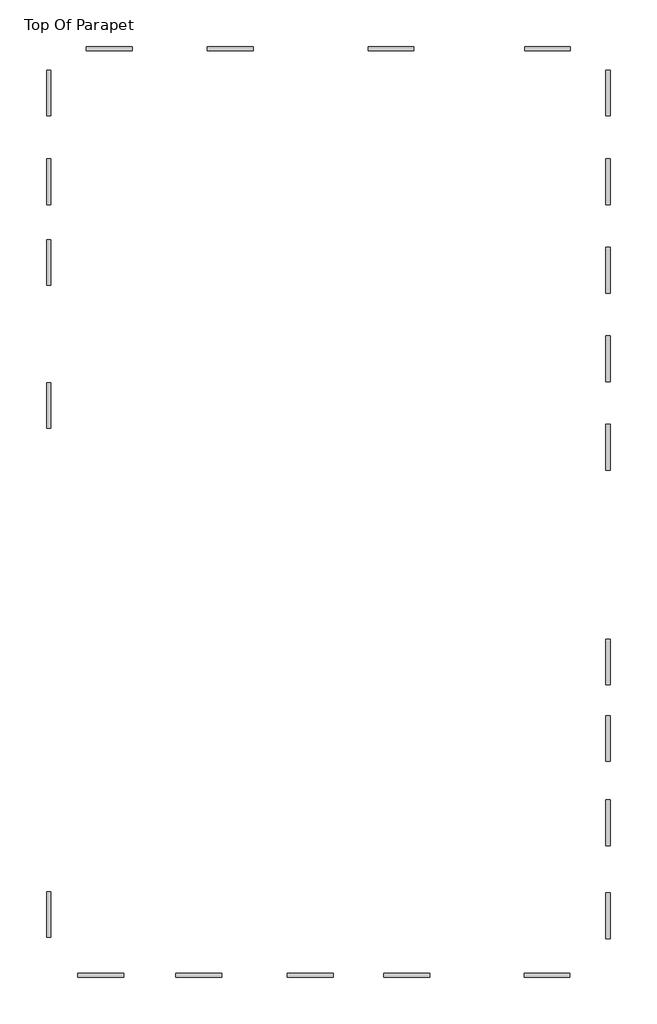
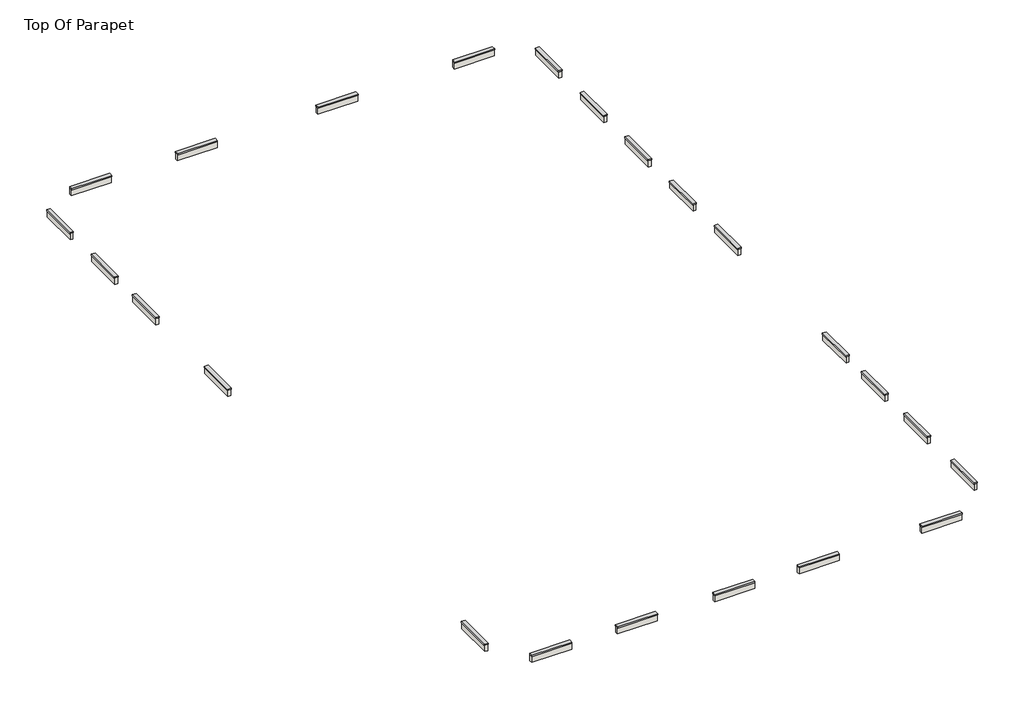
# One storey: 23 walls, 6 proxies.
"""IFC4 building model written with IfcOpenShell, lengths in millimetres."""

import ifcopenshell
import ifcopenshell.guid

model = None  # the IFC model being written
_history = None  # IfcOwnerHistory: only IFC2X3 demands one
_inside = {}  # id of a spatial element -> (the spatial element, [elements in it])
_under = {}  # id of a project, library or spatial element -> (it, [spatial elements below it])
_declared = {}  # id of a project -> (the project, [libraries it declares])
_typed = {}  # id of a type object -> (the type object, [elements of that type])
_made_of = {}  # id of a material, layer set ... -> (it, [elements and type objects made of it])


def new_model(schema):
    """Start an empty IFC model of exactly this schema.

    Asked for "IFC4X3", IfcOpenShell would pick the latest addendum, in which some entities
    have other attributes; the version numbers below select the first issue.
    IFC2X3 requires an IfcOwnerHistory on every rooted entity: one is made here for all.
    """
    global model, _history
    if schema == "IFC4X3":
        model = ifcopenshell.file(schema_version=(4, 3, 0, 0))
    else:
        model = ifcopenshell.file(schema=schema)
    _inside.clear()
    _under.clear()
    _declared.clear()
    _typed.clear()
    _made_of.clear()
    _history = None
    if model.schema == "IFC2X3":
        org = make("IfcOrganization", Name="unknown")
        user = make(
            "IfcPersonAndOrganization",
            ThePerson=make("IfcPerson", FamilyName="unknown"),
            TheOrganization=org,
        )
        app = make(
            "IfcApplication",
            ApplicationDeveloper=org,
            Version="unknown",
            ApplicationFullName="unknown",
            ApplicationIdentifier="unknown",
        )
        _history = make(
            "IfcOwnerHistory",
            OwningUser=user,
            OwningApplication=app,
            ChangeAction="ADDED",
            CreationDate=0,
        )
    return model


def make(cls, **values):
    """One entity of the class cls with the attributes given. An attribute that is None is left unset."""
    return model.create_entity(
        cls, **{name: value for name, value in values.items() if value is not None}
    )


def rooted(cls, **values):
    """An entity with a GlobalId (a new one), such as an element, a storey or a relation."""
    return make(cls, GlobalId=ifcopenshell.guid.new(), OwnerHistory=_history, **values)


def si_unit(unit_type, name, prefix=None):
    """IfcSIUnit, for example si_unit("LENGTHUNIT", "METRE", prefix="MILLI")."""
    return make("IfcSIUnit", UnitType=unit_type, Prefix=prefix, Name=name)


def assignment(units):
    """IfcUnitAssignment: the units of a project."""
    return None if units is None else make("IfcUnitAssignment", Units=units)


def point(xyz):
    """IfcCartesianPoint."""
    return None if xyz is None else make("IfcCartesianPoint", Coordinates=xyz)


def direction(xyz):
    """IfcDirection."""
    return None if xyz is None else make("IfcDirection", DirectionRatios=xyz)


def frame(location, z_axis=None, x_axis=None):
    """IfcAxis2Placement3D, a coordinate frame: its origin and axes. An axis left out is left unset."""
    return make(
        "IfcAxis2Placement3D",
        Location=point(location),
        Axis=direction(z_axis),
        RefDirection=direction(x_axis),
    )


def origin():
    """The frame at (0, 0, 0) with its axes left unset."""
    return frame((0.0, 0.0, 0.0))


def place(relative_to, where):
    """IfcLocalPlacement: puts the frame where relative to a parent placement (None: the world)."""
    return make(
        "IfcLocalPlacement", PlacementRelTo=relative_to, RelativePlacement=where
    )


def context(
    kind, dimensions, precision=None, world=None, true_north=None, identifier=None
):
    """IfcGeometricRepresentationContext, for example the 3D "Model" context."""
    return make(
        "IfcGeometricRepresentationContext",
        ContextIdentifier=identifier,
        ContextType=kind,
        CoordinateSpaceDimension=dimensions,
        Precision=precision,
        WorldCoordinateSystem=world,
        TrueNorth=true_north,
    )


def project(units=None, contexts=None):
    """IfcProject with its units and contexts."""
    return rooted(
        "IfcProject",
        Name="project",
        RepresentationContexts=contexts,
        UnitsInContext=assignment(units),
    )


def spatial(cls, under=None, at=None, **own):
    """A site, building, storey or space (cls), placed at a placement, below another one or the project."""
    s = rooted(cls, ObjectPlacement=at, **own)
    if under is not None:
        _under.setdefault(under.id(), (under, []))[1].append(s)
    return s


def polyline(points):
    """IfcPolyline through the points."""
    return make("IfcPolyline", Points=[point(p) for p in points])


def outline(outer, holes=None, kind="AREA"):
    """IfcArbitraryClosedProfileDef: a profile drawn as a closed curve; with holes, ...WithVoids."""
    if holes is None:
        return make("IfcArbitraryClosedProfileDef", ProfileType=kind, OuterCurve=outer)
    return make(
        "IfcArbitraryProfileDefWithVoids",
        ProfileType=kind,
        OuterCurve=outer,
        InnerCurves=holes,
    )


def extrude(swept, where, along, depth):
    """IfcExtrudedAreaSolid: the profile swept, set in the frame where, extruded along a direction by depth."""
    return make(
        "IfcExtrudedAreaSolid",
        SweptArea=swept,
        Position=where,
        ExtrudedDirection=direction(along),
        Depth=depth,
    )


def shape(context_of_items, identifier, shape_type, items):
    """IfcShapeRepresentation: the items that make up one representation, for example the "Body"."""
    return make(
        "IfcShapeRepresentation",
        ContextOfItems=context_of_items,
        RepresentationIdentifier=identifier,
        RepresentationType=shape_type,
        Items=items,
    )


def made_of(thing, what):
    """Note that an element or type object is made of a material, layer set ...; save() writes the relation."""
    if what is not None:
        _made_of.setdefault(what.id(), (what, []))[1].append(thing)
    return thing


def element(
    cls,
    number,
    at=None,
    inside=None,
    cuts=None,
    type_object=None,
    material=None,
    context=None,
    identifier="Body",
    shape_type=None,
    held_by="IfcProductDefinitionShape",
    body=None,
    shapes=None,
    **own,
):
    """One element of the class cls, such as IfcWall. Its Tag is "e" and its number.

    at: its placement. inside: the storey or other place that contains it. cuts: it is an
    opening in that element (IfcRelVoidsElement). A single representation is given by context,
    identifier, shape_type and body (its items); several are given by shapes. held_by: the class
    of the entity that holds the representations. save() writes the other relations.
    """
    e = rooted(cls, Tag="e%d" % number, ObjectPlacement=at, **own)
    if body is not None:
        shapes = [shape(context, identifier, shape_type, body)]
    if shapes is not None:
        e.Representation = make(held_by, Representations=shapes)
    if inside is not None:
        _inside.setdefault(inside.id(), (inside, []))[1].append(e)
    if cuts is not None:
        rooted(
            "IfcRelVoidsElement", RelatingBuildingElement=cuts, RelatedOpeningElement=e
        )
    if type_object is not None:
        _typed.setdefault(type_object.id(), (type_object, []))[1].append(e)
    return made_of(e, material)


def aggregate(whole, parts):
    """IfcRelAggregates: a whole, such as a stair, and the parts it consists of."""
    return rooted("IfcRelAggregates", RelatingObject=whole, RelatedObjects=parts)


def save(model, path):
    """Write the relations noted so far, then the file.

    IfcRelAggregates (storeys below a building ...), IfcRelContainedInSpatialStructure (elements
    in a storey), IfcRelDefinesByType, IfcRelAssociatesMaterial and IfcRelDeclares: one each for
    every whole, place, type object, material and project.
    """
    for whole, parts in _under.values():
        aggregate(whole, parts)
    for where, things in _inside.values():
        rooted(
            "IfcRelContainedInSpatialStructure",
            RelatedElements=things,
            RelatingStructure=where,
        )
    for kind, things in _typed.values():
        rooted("IfcRelDefinesByType", RelatedObjects=things, RelatingType=kind)
    for what, things in _made_of.values():
        rooted("IfcRelAssociatesMaterial", RelatedObjects=things, RelatingMaterial=what)
    for by, libraries in _declared.values():
        rooted("IfcRelDeclares", RelatingContext=by, RelatedDefinitions=libraries)
    model.write(path)


model = new_model("IFC4")

# Units and contexts
model_context = context("Model", 3, world=origin())
ifc_project = project(units=[si_unit("LENGTHUNIT", "METRE", prefix="MILLI")], contexts=[model_context])

# Site, building, storey
site = spatial("IfcSite", under=ifc_project)
building = spatial("IfcBuilding", under=site)
storey = spatial("IfcBuildingStorey", under=building, Name="Top Of Parapet", Elevation=5900.0)

# Proxies
placement = place(None, origin())
element("IfcBuildingElementProxy", 1, Name="Cornice", ObjectType="Cornice", at=placement, inside=storey, context=model_context, shape_type="SweptSolid", body=[
    extrude(outline(polyline([(-19976.2327602, -41404.7846466), (-19976.2327602, -41104.7846466), (-16876.2327604, -41104.7846466), (-16876.2327604, -41404.7846466), (-19976.2327602, -41404.7846466)])), frame((0.0, 0.0, 5800.0), z_axis=(0.0, 0.0, 1.0), x_axis=(1.0, 0.0, 0.0)), (0.0, 0.0, 1.0), 100.0),
    extrude(outline(polyline([(-5776.2327602, -41404.7846466), (-5776.2327602, -41104.7846466), (-2676.2327604, -41104.7846466), (-2676.2327604, -41404.7846466), (-5776.2327602, -41404.7846466)])), frame((0.0, 0.0, 5800.0), z_axis=(0.0, 0.0, 1.0), x_axis=(1.0, 0.0, 0.0)), (0.0, 0.0, 1.0), 100.0),
    extrude(outline(polyline([(773.7672398, -41404.7846466), (773.7672398, -41104.7846466), (3873.7672396, -41104.7846466), (3873.7672396, -41404.7846466), (773.7672398, -41404.7846466)])), frame((0.0, 0.0, 5800.0), z_axis=(0.0, 0.0, 1.0), x_axis=(1.0, 0.0, 0.0)), (0.0, 0.0, 1.0), 100.0),
    extrude(outline(polyline([(-13326.2327602, -41404.7846466), (-13326.2327602, -41104.7846466), (-10226.2327604, -41104.7846466), (-10226.2327604, -41404.7846466), (-13326.2327602, -41404.7846466)])), frame((0.0, 0.0, 5800.0), z_axis=(0.0, 0.0, 1.0), x_axis=(1.0, 0.0, 0.0)), (0.0, 0.0, 1.0), 100.0),
])
element("IfcBuildingElementProxy", 2, Name="Cornice", ObjectType="Cornice", at=placement, inside=storey, context=model_context, shape_type="SweptSolid", body=[
    extrude(outline(polyline([(-22097.2327605, -35594.7846469), (-21797.2327605, -35594.7846469), (-21797.2327605, -38694.7846467), (-22097.2327605, -38694.7846467), (-22097.2327605, -35594.7846469)])), frame((0.0, 0.0, 5800.0), z_axis=(0.0, 0.0, 1.0), x_axis=(1.0, 0.0, 0.0)), (0.0, 0.0, 1.0), 100.0),
])
element("IfcBuildingElementProxy", 3, Name="Cornice", ObjectType="Cornice", at=placement, inside=storey, context=model_context, shape_type="SweptSolid", body=[
    extrude(outline(polyline([(10282.7672394, -41404.7846466), (10282.7672394, -41104.7846466), (13382.7672392, -41104.7846466), (13382.7672392, -41404.7846466), (10282.7672394, -41404.7846466)])), frame((0.0, 0.0, 5800.0), z_axis=(0.0, 0.0, 1.0), x_axis=(1.0, 0.0, 0.0)), (0.0, 0.0, 1.0), 100.0),
])
element("IfcBuildingElementProxy", 4, Name="Cornice", ObjectType="Cornice", at=placement, inside=storey, context=model_context, shape_type="SweptSolid", body=[
    extrude(outline(polyline([(16103.0482736, -38764.7846463), (15803.0482736, -38764.7846463), (15803.0482736, -35664.7846465), (16103.0482736, -35664.7846465), (16103.0482736, -38764.7846463)])), frame((0.0, 0.0, 5803.3807397), z_axis=(0.0, 0.0, 1.0), x_axis=(1.0, 0.0, 0.0)), (0.0, 0.0, 1.0), 100.0),
    extrude(outline(polyline([(16102.7672395, -32464.7846463), (15802.7672395, -32464.7846463), (15802.7672395, -29364.7846465), (16102.7672395, -29364.7846465), (16102.7672395, -32464.7846463)])), frame((0.0, 0.0, 5803.3807397), z_axis=(0.0, 0.0, 1.0), x_axis=(1.0, 0.0, 0.0)), (0.0, 0.0, 1.0), 100.0),
    extrude(outline(polyline([(16102.7672395, -26764.2217865), (15802.7672395, -26764.2217865), (15802.7672395, -23664.2217867), (16102.7672395, -23664.2217867), (16102.7672395, -26764.2217865)])), frame((0.0, 0.0, 5803.3807397), z_axis=(0.0, 0.0, 1.0), x_axis=(1.0, 0.0, 0.0)), (0.0, 0.0, 1.0), 100.0),
    extrude(outline(polyline([(16102.7672395, -21565.3475062), (15802.7672395, -21565.3475062), (15802.7672395, -18465.3475064), (16102.7672395, -18465.3475064), (16102.7672395, -21565.3475062)])), frame((0.0, 0.0, 5803.3807397), z_axis=(0.0, 0.0, 1.0), x_axis=(1.0, 0.0, 0.0)), (0.0, 0.0, 1.0), 100.0),
    extrude(outline(polyline([(16102.7672395, -7014.7846463), (15802.7672395, -7014.7846463), (15802.7672395, -3914.7846465), (16102.7672395, -3914.7846465), (16102.7672395, -7014.7846463)])), frame((0.0, 0.0, 5803.3807397), z_axis=(0.0, 0.0, 1.0), x_axis=(1.0, 0.0, 0.0)), (0.0, 0.0, 1.0), 100.0),
    extrude(outline(polyline([(16102.7672395, -1014.7846463), (15802.7672395, -1014.7846463), (15802.7672395, 2085.2153535), (16102.7672395, 2085.2153535), (16102.7672395, -1014.7846463)])), frame((0.0, 0.0, 5803.3807397), z_axis=(0.0, 0.0, 1.0), x_axis=(1.0, 0.0, 0.0)), (0.0, 0.0, 1.0), 100.0),
    extrude(outline(polyline([(16102.7672395, 4985.2153537), (15802.7672395, 4985.2153537), (15802.7672395, 8085.2153535), (16102.7672395, 8085.2153535), (16102.7672395, 4985.2153537)])), frame((0.0, 0.0, 5803.3807397), z_axis=(0.0, 0.0, 1.0), x_axis=(1.0, 0.0, 0.0)), (0.0, 0.0, 1.0), 100.0),
    extrude(outline(polyline([(16102.7672395, 10985.2153537), (15802.7672395, 10985.2153537), (15802.7672395, 14085.2153535), (16102.7672395, 14085.2153535), (16102.7672395, 10985.2153537)])), frame((0.0, 0.0, 5803.3807397), z_axis=(0.0, 0.0, 1.0), x_axis=(1.0, 0.0, 0.0)), (0.0, 0.0, 1.0), 100.0),
    extrude(outline(polyline([(16102.7672395, 17005.2153546), (15802.7672395, 17005.2153546), (15802.7672395, 20105.2153544), (16102.7672395, 20105.2153544), (16102.7672395, 17005.2153546)])), frame((0.0, 0.0, 5803.3807397), z_axis=(0.0, 0.0, 1.0), x_axis=(1.0, 0.0, 0.0)), (0.0, 0.0, 1.0), 100.0),
])
element("IfcBuildingElementProxy", 5, Name="Cornice", ObjectType="Cornice", at=placement, inside=storey, context=model_context, shape_type="SweptSolid", body=[
    extrude(outline(polyline([(13402.7672392, 21695.2153534), (13402.7672392, 21395.2153534), (10302.7672394, 21395.2153534), (10302.7672394, 21695.2153534), (13402.7672392, 21695.2153534)])), frame((0.0, 0.0, 5803.3807397), z_axis=(0.0, 0.0, 1.0), x_axis=(1.0, 0.0, 0.0)), (0.0, 0.0, 1.0), 100.0),
    extrude(outline(polyline([(2802.7672392, 21695.2153534), (2802.7672392, 21395.2153534), (-297.2327606, 21395.2153534), (-297.2327606, 21695.2153534), (2802.7672392, 21695.2153534)])), frame((0.0, 0.0, 5803.3807397), z_axis=(0.0, 0.0, 1.0), x_axis=(1.0, 0.0, 0.0)), (0.0, 0.0, 1.0), 100.0),
    extrude(outline(polyline([(-8097.2327608, 21695.2153534), (-8097.2327608, 21395.2153534), (-11197.2327606, 21395.2153534), (-11197.2327606, 21695.2153534), (-8097.2327608, 21695.2153534)])), frame((0.0, 0.0, 5803.3807397), z_axis=(0.0, 0.0, 1.0), x_axis=(1.0, 0.0, 0.0)), (0.0, 0.0, 1.0), 100.0),
    extrude(outline(polyline([(-16297.2327608, 21695.2153534), (-16297.2327608, 21395.2153534), (-19397.2327606, 21395.2153534), (-19397.2327606, 21695.2153534), (-16297.2327608, 21695.2153534)])), frame((0.0, 0.0, 5803.3807397), z_axis=(0.0, 0.0, 1.0), x_axis=(1.0, 0.0, 0.0)), (0.0, 0.0, 1.0), 100.0),
])
element("IfcBuildingElementProxy", 6, Name="Cornice", ObjectType="Cornice", at=placement, inside=storey, context=model_context, shape_type="SweptSolid", body=[
    extrude(outline(polyline([(-21797.2327605, 17005.2153546), (-22097.2327605, 17005.2153546), (-22097.2327605, 20105.2153544), (-21797.2327605, 20105.2153544), (-21797.2327605, 17005.2153546)])), frame((0.0, 0.0, 5803.3807397), z_axis=(0.0, 0.0, 1.0), x_axis=(1.0, 0.0, 0.0)), (0.0, 0.0, 1.0), 100.0),
    extrude(outline(polyline([(-21797.2327605, 10985.2153537), (-22097.2327605, 10985.2153537), (-22097.2327605, 14085.2153535), (-21797.2327605, 14085.2153535), (-21797.2327605, 10985.2153537)])), frame((0.0, 0.0, 5803.3807397), z_axis=(0.0, 0.0, 1.0), x_axis=(1.0, 0.0, 0.0)), (0.0, 0.0, 1.0), 100.0),
    extrude(outline(polyline([(-21797.2327605, 5505.2153546), (-22097.2327605, 5505.2153546), (-22097.2327605, 8605.2153544), (-21797.2327605, 8605.2153544), (-21797.2327605, 5505.2153546)])), frame((0.0, 0.0, 5803.3807397), z_axis=(0.0, 0.0, 1.0), x_axis=(1.0, 0.0, 0.0)), (0.0, 0.0, 1.0), 100.0),
    extrude(outline(polyline([(-21797.2327605, -4194.7846454), (-22097.2327605, -4194.7846454), (-22097.2327605, -1094.7846456), (-21797.2327605, -1094.7846456), (-21797.2327605, -4194.7846454)])), frame((0.0, 0.0, 5803.3807397), z_axis=(0.0, 0.0, 1.0), x_axis=(1.0, 0.0, 0.0)), (0.0, 0.0, 1.0), 100.0),
])

# Walls
element("IfcWall", 7, ObjectType="Exterior - Blockwork 200mm", at=placement, inside=storey, context=model_context, shape_type="SweptSolid", body=[
    extrude(outline(polyline([(-21837.2327605, 20105.2153544), (-21837.2327605, 17005.2153546), (-22057.2327605, 17005.2153546), (-22057.2327605, 20105.2153544), (-21837.2327605, 20105.2153544)])), frame((0.0, 0.0, 5302.8002678), z_axis=(0.0, 0.0, 1.0), x_axis=(1.0, 0.0, 0.0)), (0.0, 0.0, 1.0), 500.5804719),
])
element("IfcWall", 8, ObjectType="Exterior - Blockwork 200mm", at=placement, inside=storey, context=model_context, shape_type="SweptSolid", body=[
    extrude(outline(polyline([(-21837.2327605, 14085.2153535), (-21837.2327605, 10985.2153537), (-22057.2327605, 10985.2153537), (-22057.2327605, 14085.2153535), (-21837.2327605, 14085.2153535)])), frame((0.0, 0.0, 5302.8002678), z_axis=(0.0, 0.0, 1.0), x_axis=(1.0, 0.0, 0.0)), (0.0, 0.0, 1.0), 500.5804719),
])
element("IfcWall", 9, ObjectType="Exterior - Blockwork 200mm", at=placement, inside=storey, context=model_context, shape_type="SweptSolid", body=[
    extrude(outline(polyline([(-21837.2327605, 8605.2153544), (-21837.2327605, 5505.2153546), (-22057.2327605, 5505.2153546), (-22057.2327605, 8605.2153544), (-21837.2327605, 8605.2153544)])), frame((0.0, 0.0, 5302.8002678), z_axis=(0.0, 0.0, 1.0), x_axis=(1.0, 0.0, 0.0)), (0.0, 0.0, 1.0), 500.5804719),
])
element("IfcWall", 10, ObjectType="Exterior - Blockwork 200mm", at=placement, inside=storey, context=model_context, shape_type="SweptSolid", body=[
    extrude(outline(polyline([(-21837.2327605, -1094.7846456), (-21837.2327605, -4194.7846454), (-22057.2327605, -4194.7846454), (-22057.2327605, -1094.7846456), (-21837.2327605, -1094.7846456)])), frame((0.0, 0.0, 5302.8002678), z_axis=(0.0, 0.0, 1.0), x_axis=(1.0, 0.0, 0.0)), (0.0, 0.0, 1.0), 500.5804719),
])
element("IfcWall", 11, ObjectType="Exterior - Blockwork 200mm", at=placement, inside=storey, context=model_context, shape_type="SweptSolid", body=[
    extrude(outline(polyline([(-21837.2327605, -35594.7846469), (-21837.2327605, -38694.7846467), (-22057.2327605, -38694.7846467), (-22057.2327605, -35594.7846469), (-21837.2327605, -35594.7846469)])), frame((0.0, 0.0, 5302.8002678), z_axis=(0.0, 0.0, 1.0), x_axis=(1.0, 0.0, 0.0)), (0.0, 0.0, 1.0), 500.5804719),
])
element("IfcWall", 12, ObjectType="Exterior - Blockwork 200mm", at=placement, inside=storey, context=model_context, shape_type="SweptSolid", body=[
    extrude(outline(polyline([(16062.7672395, 20105.2153544), (16062.7672395, 17005.2153546), (15842.7672395, 17005.2153546), (15842.7672395, 20105.2153544), (16062.7672395, 20105.2153544)])), frame((0.0, 0.0, 5302.8002678), z_axis=(0.0, 0.0, 1.0), x_axis=(1.0, 0.0, 0.0)), (0.0, 0.0, 1.0), 500.5804719),
])
element("IfcWall", 13, ObjectType="Exterior - Blockwork 200mm", at=placement, inside=storey, context=model_context, shape_type="SweptSolid", body=[
    extrude(outline(polyline([(16062.7672395, 14085.2153535), (16062.7672395, 10985.2153537), (15842.7672395, 10985.2153537), (15842.7672395, 14085.2153535), (16062.7672395, 14085.2153535)])), frame((0.0, 0.0, 5302.8002678), z_axis=(0.0, 0.0, 1.0), x_axis=(1.0, 0.0, 0.0)), (0.0, 0.0, 1.0), 500.5804719),
])
element("IfcWall", 14, ObjectType="Exterior - Blockwork 200mm", at=placement, inside=storey, context=model_context, shape_type="SweptSolid", body=[
    extrude(outline(polyline([(16062.7672395, 8085.2153535), (16062.7672395, 4985.2153537), (15842.7672395, 4985.2153537), (15842.7672395, 8085.2153535), (16062.7672395, 8085.2153535)])), frame((0.0, 0.0, 5302.8002678), z_axis=(0.0, 0.0, 1.0), x_axis=(1.0, 0.0, 0.0)), (0.0, 0.0, 1.0), 500.5804719),
])
element("IfcWall", 15, ObjectType="Exterior - Blockwork 200mm", at=placement, inside=storey, context=model_context, shape_type="SweptSolid", body=[
    extrude(outline(polyline([(16062.7672395, 2085.2153535), (16062.7672395, -1014.7846463), (15842.7672395, -1014.7846463), (15842.7672395, 2085.2153535), (16062.7672395, 2085.2153535)])), frame((0.0, 0.0, 5302.8002678), z_axis=(0.0, 0.0, 1.0), x_axis=(1.0, 0.0, 0.0)), (0.0, 0.0, 1.0), 500.5804719),
])
element("IfcWall", 16, ObjectType="Exterior - Blockwork 200mm", at=placement, inside=storey, context=model_context, shape_type="SweptSolid", body=[
    extrude(outline(polyline([(16062.7672395, -3914.7846465), (16062.7672395, -7014.7846463), (15842.7672395, -7014.7846463), (15842.7672395, -3914.7846465), (16062.7672395, -3914.7846465)])), frame((0.0, 0.0, 5302.8002678), z_axis=(0.0, 0.0, 1.0), x_axis=(1.0, 0.0, 0.0)), (0.0, 0.0, 1.0), 500.5804719),
])
element("IfcWall", 17, ObjectType="Exterior - Blockwork 200mm", at=placement, inside=storey, context=model_context, shape_type="SweptSolid", body=[
    extrude(outline(polyline([(16062.7672395, -18465.3475064), (16062.7672395, -21565.3475062), (15842.7672395, -21565.3475062), (15842.7672395, -18465.3475064), (16062.7672395, -18465.3475064)])), frame((0.0, 0.0, 5302.8002678), z_axis=(0.0, 0.0, 1.0), x_axis=(1.0, 0.0, 0.0)), (0.0, 0.0, 1.0), 500.5804719),
])
element("IfcWall", 18, ObjectType="Exterior - Blockwork 200mm", at=placement, inside=storey, context=model_context, shape_type="SweptSolid", body=[
    extrude(outline(polyline([(16062.7672395, -23664.2217867), (16062.7672395, -26764.2217865), (15842.7672395, -26764.2217865), (15842.7672395, -23664.2217867), (16062.7672395, -23664.2217867)])), frame((0.0, 0.0, 5302.8002678), z_axis=(0.0, 0.0, 1.0), x_axis=(1.0, 0.0, 0.0)), (0.0, 0.0, 1.0), 500.5804719),
])
element("IfcWall", 19, ObjectType="Exterior - Blockwork 200mm", at=placement, inside=storey, context=model_context, shape_type="SweptSolid", body=[
    extrude(outline(polyline([(16062.7672395, -29364.7846465), (16062.7672395, -32464.7846463), (15842.7672395, -32464.7846463), (15842.7672395, -29364.7846465), (16062.7672395, -29364.7846465)])), frame((0.0, 0.0, 5302.8002678), z_axis=(0.0, 0.0, 1.0), x_axis=(1.0, 0.0, 0.0)), (0.0, 0.0, 1.0), 500.5804719),
])
element("IfcWall", 20, ObjectType="Exterior - Blockwork 200mm", at=placement, inside=storey, context=model_context, shape_type="SweptSolid", body=[
    extrude(outline(polyline([(16063.0482736, -35664.7846465), (16063.0482736, -38764.7846463), (15843.0482736, -38764.7846463), (15843.0482736, -35664.7846465), (16063.0482736, -35664.7846465)])), frame((0.0, 0.0, 5302.8002678), z_axis=(0.0, 0.0, 1.0), x_axis=(1.0, 0.0, 0.0)), (0.0, 0.0, 1.0), 500.5804719),
])
element("IfcWall", 21, ObjectType="Exterior - Blockwork 200mm", at=placement, inside=storey, context=model_context, shape_type="SweptSolid", body=[
    extrude(outline(polyline([(10302.7672394, 21655.2153534), (13402.7672392, 21655.2153534), (13402.7672392, 21435.2153534), (10302.7672394, 21435.2153534), (10302.7672394, 21655.2153534)])), frame((0.0, 0.0, 5302.8002678), z_axis=(0.0, 0.0, 1.0), x_axis=(1.0, 0.0, 0.0)), (0.0, 0.0, 1.0), 500.5804719),
])
element("IfcWall", 22, ObjectType="Exterior - Blockwork 200mm", at=placement, inside=storey, context=model_context, shape_type="SweptSolid", body=[
    extrude(outline(polyline([(-297.2327606, 21655.2153534), (2802.7672392, 21655.2153534), (2802.7672392, 21435.2153534), (-297.2327606, 21435.2153534), (-297.2327606, 21655.2153534)])), frame((0.0, 0.0, 5302.8002678), z_axis=(0.0, 0.0, 1.0), x_axis=(1.0, 0.0, 0.0)), (0.0, 0.0, 1.0), 500.5804719),
])
element("IfcWall", 23, ObjectType="Exterior - Blockwork 200mm", at=placement, inside=storey, context=model_context, shape_type="SweptSolid", body=[
    extrude(outline(polyline([(-11197.2327606, 21655.2153534), (-8097.2327608, 21655.2153534), (-8097.2327608, 21435.2153534), (-11197.2327606, 21435.2153534), (-11197.2327606, 21655.2153534)])), frame((0.0, 0.0, 5302.8002678), z_axis=(0.0, 0.0, 1.0), x_axis=(1.0, 0.0, 0.0)), (0.0, 0.0, 1.0), 500.5804719),
])
element("IfcWall", 24, ObjectType="Exterior - Blockwork 200mm", at=placement, inside=storey, context=model_context, shape_type="SweptSolid", body=[
    extrude(outline(polyline([(-19397.2327606, 21655.2153534), (-16297.2327608, 21655.2153534), (-16297.2327608, 21435.2153534), (-19397.2327606, 21435.2153534), (-19397.2327606, 21655.2153534)])), frame((0.0, 0.0, 5302.8002678), z_axis=(0.0, 0.0, 1.0), x_axis=(1.0, 0.0, 0.0)), (0.0, 0.0, 1.0), 500.5804719),
])
element("IfcWall", 25, ObjectType="Exterior - Blockwork 200mm", at=placement, inside=storey, context=model_context, shape_type="SweptSolid", body=[
    extrude(outline(polyline([(13382.7672392, -41364.7846466), (10282.7672394, -41364.7846466), (10282.7672394, -41144.7846466), (13382.7672392, -41144.7846466), (13382.7672392, -41364.7846466)])), frame((0.0, 0.0, 5302.8002678), z_axis=(0.0, 0.0, 1.0), x_axis=(1.0, 0.0, 0.0)), (0.0, 0.0, 1.0), 500.5804719),
])
element("IfcWall", 26, ObjectType="Exterior - Blockwork 200mm", at=placement, inside=storey, context=model_context, shape_type="SweptSolid", body=[
    extrude(outline(polyline([(3873.7672396, -41364.7846466), (773.7672398, -41364.7846466), (773.7672398, -41144.7846466), (3873.7672396, -41144.7846466), (3873.7672396, -41364.7846466)])), frame((0.0, 0.0, 5302.8002678), z_axis=(0.0, 0.0, 1.0), x_axis=(1.0, 0.0, 0.0)), (0.0, 0.0, 1.0), 500.5804719),
])
element("IfcWall", 27, ObjectType="Exterior - Blockwork 200mm", at=placement, inside=storey, context=model_context, shape_type="SweptSolid", body=[
    extrude(outline(polyline([(-2676.2327604, -41364.7846466), (-5776.2327602, -41364.7846466), (-5776.2327602, -41144.7846466), (-2676.2327604, -41144.7846466), (-2676.2327604, -41364.7846466)])), frame((0.0, 0.0, 5302.8002678), z_axis=(0.0, 0.0, 1.0), x_axis=(1.0, 0.0, 0.0)), (0.0, 0.0, 1.0), 500.5804719),
])
element("IfcWall", 28, ObjectType="Exterior - Blockwork 200mm", at=placement, inside=storey, context=model_context, shape_type="SweptSolid", body=[
    extrude(outline(polyline([(-10226.2327604, -41364.7846466), (-13326.2327602, -41364.7846466), (-13326.2327602, -41144.7846466), (-10226.2327604, -41144.7846466), (-10226.2327604, -41364.7846466)])), frame((0.0, 0.0, 5302.8002678), z_axis=(0.0, 0.0, 1.0), x_axis=(1.0, 0.0, 0.0)), (0.0, 0.0, 1.0), 500.5804719),
])
element("IfcWall", 29, ObjectType="Exterior - Blockwork 200mm", at=placement, inside=storey, context=model_context, shape_type="SweptSolid", body=[
    extrude(outline(polyline([(-16876.2327604, -41364.7846466), (-19976.2327602, -41364.7846466), (-19976.2327602, -41144.7846466), (-16876.2327604, -41144.7846466), (-16876.2327604, -41364.7846466)])), frame((0.0, 0.0, 5302.8002678), z_axis=(0.0, 0.0, 1.0), x_axis=(1.0, 0.0, 0.0)), (0.0, 0.0, 1.0), 500.5804719),
])

save(model, "model.ifc")
